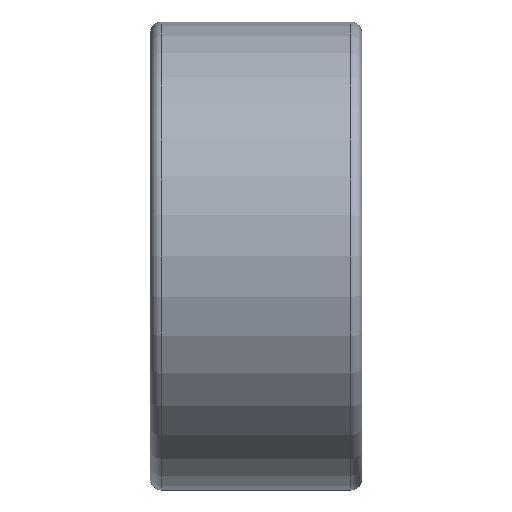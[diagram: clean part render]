
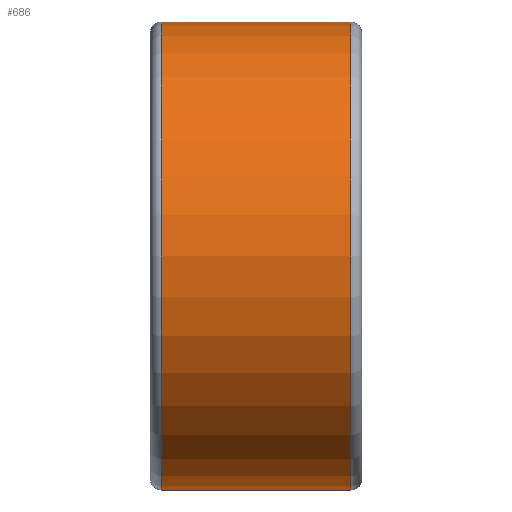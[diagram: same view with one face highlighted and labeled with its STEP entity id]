
A CAD part, front view. The second image highlights one B-rep face of the part: STEP entity #686.
In plain terms, the highlighted cylindrical face has radius 21 mm (diameter 42 mm), a full revolution.
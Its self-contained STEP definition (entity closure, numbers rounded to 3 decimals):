
#175=FACE_BOUND($,#282,.T.);
#216=FACE_OUTER_BOUND($,#281,.T.);
#281=EDGE_LOOP($,(#625));
#282=EDGE_LOOP($,(#626));
#346=CIRCLE($,#795,21.);
#347=CIRCLE($,#797,21.);
#406=VERTEX_POINT($,#1729);
#407=VERTEX_POINT($,#1732);
#481=EDGE_CURVE($,#406,#406,#346,.T.);
#482=EDGE_CURVE($,#407,#407,#347,.T.);
#625=ORIENTED_EDGE($,*,*,#481,.T.);
#626=ORIENTED_EDGE($,*,*,#482,.F.);
#645=CYLINDRICAL_SURFACE($,#796,21.);
#686=ADVANCED_FACE($,(#216,#175),#645,.T.);
#795=AXIS2_PLACEMENT_3D($,#1730,#1018,#1019);
#796=AXIS2_PLACEMENT_3D($,#1731,#1020,#1021);
#797=AXIS2_PLACEMENT_3D($,#1733,#1022,#1023);
#1018=DIRECTION('center_axis',(1.,0.,0.));
#1019=DIRECTION('ref_axis',(0.,0.,-1.));
#1020=DIRECTION('center_axis',(1.,0.,0.));
#1021=DIRECTION('ref_axis',(0.,1.,0.));
#1022=DIRECTION('center_axis',(1.,0.,0.));
#1023=DIRECTION('ref_axis',(0.,0.,-1.));
#1729=CARTESIAN_POINT('',(-8.5,21.,0.));
#1730=CARTESIAN_POINT('Origin',(-8.5,0.,0.));
#1731=CARTESIAN_POINT('Origin',(0.,0.,0.));
#1732=CARTESIAN_POINT('',(8.5,21.,0.));
#1733=CARTESIAN_POINT('Origin',(8.5,0.,0.));
